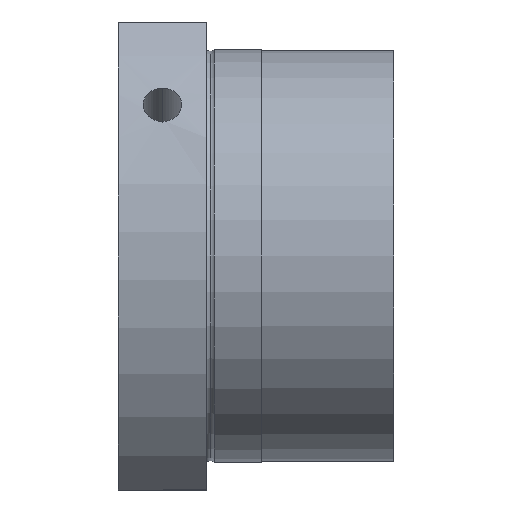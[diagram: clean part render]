
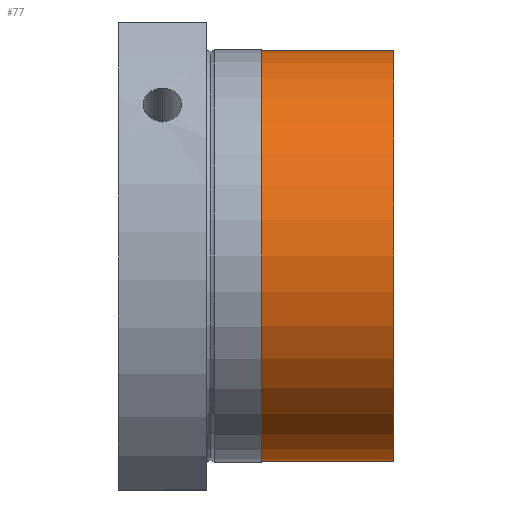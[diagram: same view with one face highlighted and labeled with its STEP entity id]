
A CAD part, front view. The second image highlights one B-rep face of the part: STEP entity #77.
In plain terms, the highlighted cylindrical face has radius 37.35 mm (diameter 74.7 mm), a partial arc.
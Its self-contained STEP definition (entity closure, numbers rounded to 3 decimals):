
#5 = ORIENTED_EDGE ( 'NONE', *, *, #492, .T. ) ;
#31 = DIRECTION ( 'NONE',  ( 0., 0., 1. ) ) ;
#73 = VERTEX_POINT ( 'NONE', #333 ) ;
#77 = ADVANCED_FACE ( 'NONE', ( #286 ), #837, .T. ) ;
#102 = VECTOR ( 'NONE', #1201, 1000. ) ;
#146 = AXIS2_PLACEMENT_3D ( 'NONE', #451, #1183, #767 ) ;
#151 = DIRECTION ( 'NONE',  ( -1., 0., 0. ) ) ;
#286 = FACE_OUTER_BOUND ( 'NONE', #1071, .T. ) ;
#333 = CARTESIAN_POINT ( 'NONE',  ( 19.37, 0., -37.35 ) ) ;
#360 = CARTESIAN_POINT ( 'NONE',  ( -100.792, 0., -37.35 ) ) ;
#380 = VERTEX_POINT ( 'NONE', #415 ) ;
#384 = LINE ( 'NONE', #1195, #102 ) ;
#413 = VECTOR ( 'NONE', #151, 1000. ) ;
#415 = CARTESIAN_POINT ( 'NONE',  ( 43.37, 0., -37.35 ) ) ;
#451 = CARTESIAN_POINT ( 'NONE',  ( -100.792, 0., 0. ) ) ;
#486 = EDGE_CURVE ( 'NONE', #380, #73, #1260, .T. ) ;
#492 = EDGE_CURVE ( 'NONE', #1089, #940, #384, .T. ) ;
#561 = CARTESIAN_POINT ( 'NONE',  ( 43.37, 0., 0. ) ) ;
#581 = ORIENTED_EDGE ( 'NONE', *, *, #706, .F. ) ;
#590 = CARTESIAN_POINT ( 'NONE',  ( 19.37, 0., 0. ) ) ;
#597 = ORIENTED_EDGE ( 'NONE', *, *, #705, .T. ) ;
#705 = EDGE_CURVE ( 'NONE', #380, #1089, #1271, .T. ) ;
#706 = EDGE_CURVE ( 'NONE', #73, #940, #1004, .T. ) ;
#709 = DIRECTION ( 'NONE',  ( 0., 0., 1. ) ) ;
#767 = DIRECTION ( 'NONE',  ( 0., 0., 1. ) ) ;
#778 = CARTESIAN_POINT ( 'NONE',  ( 43.37, 0., 37.35 ) ) ;
#804 = ORIENTED_EDGE ( 'NONE', *, *, #486, .F. ) ;
#837 = CYLINDRICAL_SURFACE ( 'NONE', #146, 37.35 ) ;
#940 = VERTEX_POINT ( 'NONE', #1278 ) ;
#1004 = CIRCLE ( 'NONE', #1315, 37.35 ) ;
#1071 = EDGE_LOOP ( 'NONE', ( #804, #597, #5, #581 ) ) ;
#1089 = VERTEX_POINT ( 'NONE', #778 ) ;
#1183 = DIRECTION ( 'NONE',  ( -1., 0., 0. ) ) ;
#1195 = CARTESIAN_POINT ( 'NONE',  ( -100.792, 0., 37.35 ) ) ;
#1201 = DIRECTION ( 'NONE',  ( -1., 0., 0. ) ) ;
#1234 = DIRECTION ( 'NONE',  ( -1., 0., 0. ) ) ;
#1260 = LINE ( 'NONE', #360, #413 ) ;
#1271 = CIRCLE ( 'NONE', #1324, 37.35 ) ;
#1278 = CARTESIAN_POINT ( 'NONE',  ( 19.37, 0., 37.35 ) ) ;
#1315 = AXIS2_PLACEMENT_3D ( 'NONE', #590, #1323, #709 ) ;
#1323 = DIRECTION ( 'NONE',  ( -1., 0., 0. ) ) ;
#1324 = AXIS2_PLACEMENT_3D ( 'NONE', #561, #1234, #31 ) ;
